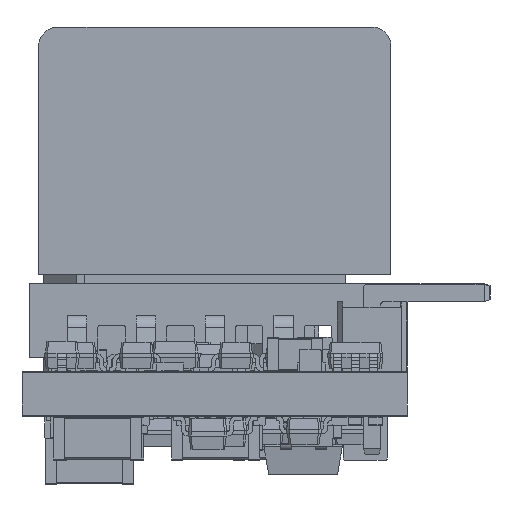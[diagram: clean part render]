
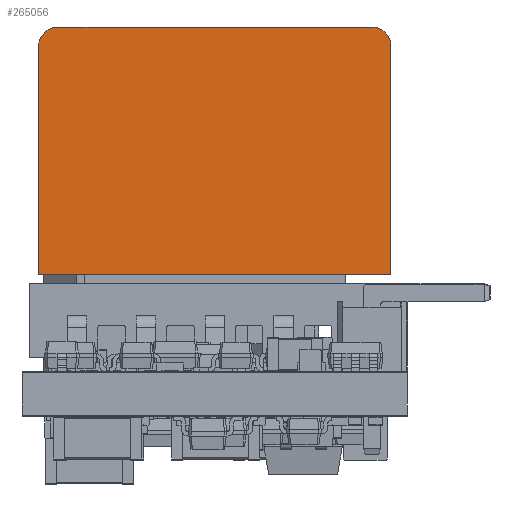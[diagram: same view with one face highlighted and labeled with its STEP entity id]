
A CAD part, left-side view. The second image highlights one B-rep face of the part: STEP entity #265056.
In plain terms, the highlighted face is a extrusion surface.
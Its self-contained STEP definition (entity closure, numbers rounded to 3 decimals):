
#264776 = VERTEX_POINT('',#264777);
#264777 = CARTESIAN_POINT('',(21.052,-0.68,
    3.518));
#264783 = EDGE_CURVE('',#264776,#264784,#264786,.T.);
#264784 = VERTEX_POINT('',#264785);
#264785 = CARTESIAN_POINT('',(21.052,12.12,
    3.518));
#264786 = LINE('',#264787,#264788);
#264787 = CARTESIAN_POINT('',(21.052,-0.68,
    3.518));
#264788 = VECTOR('',#264789,1.);
#264789 = DIRECTION('',(0.,1.,0.));
#264866 = EDGE_CURVE('',#264784,#264867,#264869,.T.);
#264867 = VERTEX_POINT('',#264868);
#264868 = CARTESIAN_POINT('',(21.052,12.12,
    11.818));
#264869 = LINE('',#264870,#264871);
#264870 = CARTESIAN_POINT('',(21.052,12.12,
    3.518));
#264871 = VECTOR('',#264872,1.);
#264872 = DIRECTION('',(0.,0.,1.));
#265036 = VERTEX_POINT('',#265037);
#265037 = CARTESIAN_POINT('',(21.052,-0.68,
    11.818));
#265043 = EDGE_CURVE('',#265036,#264776,#265044,.T.);
#265044 = LINE('',#265045,#265046);
#265045 = CARTESIAN_POINT('',(21.052,-0.68,
    11.818));
#265046 = VECTOR('',#265047,1.);
#265047 = DIRECTION('',(0.,0.,-1.));
#265056 = ADVANCED_FACE('',(#265057),#265086,.T.);
#265057 = FACE_BOUND('',#265058,.T.);
#265058 = EDGE_LOOP('',(#265059,#265060,#265061,#265062,#265071,#265079)
  );
#265059 = ORIENTED_EDGE('',*,*,#264866,.F.);
#265060 = ORIENTED_EDGE('',*,*,#264783,.F.);
#265061 = ORIENTED_EDGE('',*,*,#265043,.F.);
#265062 = ORIENTED_EDGE('',*,*,#265063,.T.);
#265063 = EDGE_CURVE('',#265036,#265064,#265066,.T.);
#265064 = VERTEX_POINT('',#265065);
#265065 = CARTESIAN_POINT('',(21.052,0.02,
    12.518));
#265066 = CIRCLE('',#265067,0.7);
#265067 = AXIS2_PLACEMENT_3D('',#265068,#265069,#265070);
#265068 = CARTESIAN_POINT('',(21.052,0.02,
    11.818));
#265069 = DIRECTION('',(-1.,0.,0.));
#265070 = DIRECTION('',(0.,1.,0.));
#265071 = ORIENTED_EDGE('',*,*,#265072,.T.);
#265072 = EDGE_CURVE('',#265064,#265073,#265075,.T.);
#265073 = VERTEX_POINT('',#265074);
#265074 = CARTESIAN_POINT('',(21.052,11.42,
    12.518));
#265075 = LINE('',#265076,#265077);
#265076 = CARTESIAN_POINT('',(21.052,0.02,
    12.518));
#265077 = VECTOR('',#265078,1.);
#265078 = DIRECTION('',(0.,1.,0.));
#265079 = ORIENTED_EDGE('',*,*,#265080,.T.);
#265080 = EDGE_CURVE('',#265073,#264867,#265081,.T.);
#265081 = CIRCLE('',#265082,0.7);
#265082 = AXIS2_PLACEMENT_3D('',#265083,#265084,#265085);
#265083 = CARTESIAN_POINT('',(21.052,11.42,
    11.818));
#265084 = DIRECTION('',(-1.,0.,0.));
#265085 = DIRECTION('',(0.,-1.,0.));
#265086 = SURFACE_OF_LINEAR_EXTRUSION('',#265087,#265091);
#265087 = LINE('',#265088,#265089);
#265088 = CARTESIAN_POINT('',(21.052,12.12,
    12.518));
#265089 = VECTOR('',#265090,1.);
#265090 = DIRECTION('',(0.,0.,-1.));
#265091 = VECTOR('',#265092,1.);
#265092 = DIRECTION('',(0.,-1.,0.));
